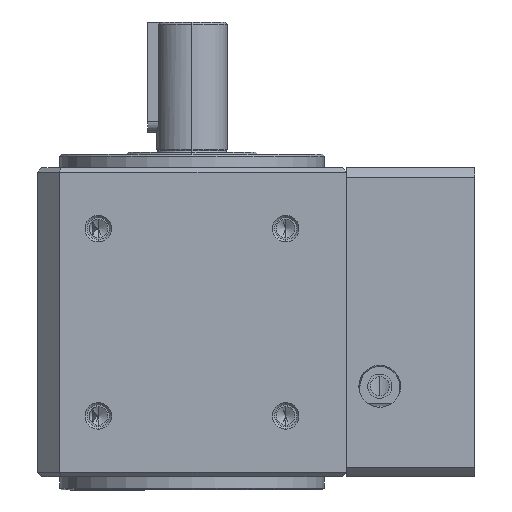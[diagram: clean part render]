
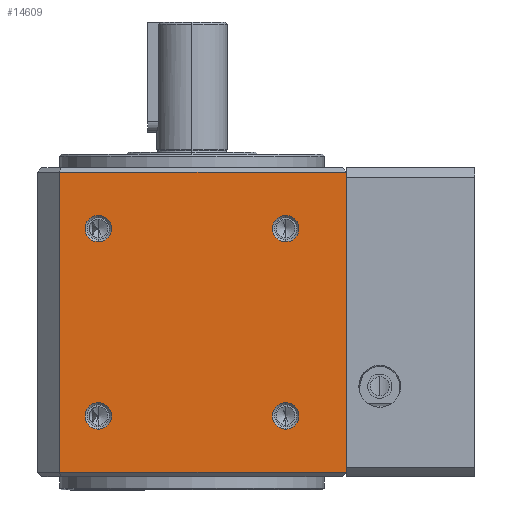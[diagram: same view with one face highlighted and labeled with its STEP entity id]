
A CAD part, front view. The second image highlights one B-rep face of the part: STEP entity #14609.
In plain terms, the highlighted planar face has unit normal (0, -1, 0).
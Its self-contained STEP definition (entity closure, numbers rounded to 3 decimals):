
#13070 = VERTEX_POINT ( 'NONE', #23437 ) ;
#13076 = EDGE_CURVE ( 'NONE', #13070, #13077, #23428, .T. ) ;
#13077 = VERTEX_POINT ( 'NONE', #23423 ) ;
#13230 = VERTEX_POINT ( 'NONE', #24698 ) ;
#13232 = EDGE_CURVE ( 'NONE', #13230, #13233, #24697, .T. ) ;
#13233 = VERTEX_POINT ( 'NONE', #24692 ) ;
#13345 = VERTEX_POINT ( 'NONE', #23815 ) ;
#13347 = EDGE_CURVE ( 'NONE', #13345, #13348, #23814, .T. ) ;
#13348 = VERTEX_POINT ( 'NONE', #23809 ) ;
#14140 = ORIENTED_EDGE ( 'NONE', *, *, #14141, .F. ) ;
#14141 = EDGE_CURVE ( 'NONE', #13348, #13345, #25699, .T. ) ;
#14142 = ORIENTED_EDGE ( 'NONE', *, *, #13347, .F. ) ;
#14143 = EDGE_LOOP ( 'NONE', ( #14144, #14148, #14151, #14154 ) ) ;
#14144 = ORIENTED_EDGE ( 'NONE', *, *, #14145, .T. ) ;
#14145 = EDGE_CURVE ( 'NONE', #14146, #14147, #25694, .T. ) ;
#14146 = VERTEX_POINT ( 'NONE', #25690 ) ;
#14147 = VERTEX_POINT ( 'NONE', #25689 ) ;
#14148 = ORIENTED_EDGE ( 'NONE', *, *, #14149, .T. ) ;
#14149 = EDGE_CURVE ( 'NONE', #14147, #14150, #25688, .T. ) ;
#14150 = VERTEX_POINT ( 'NONE', #25812 ) ;
#14151 = ORIENTED_EDGE ( 'NONE', *, *, #14152, .F. ) ;
#14152 = EDGE_CURVE ( 'NONE', #14153, #14150, #25811, .T. ) ;
#14153 = VERTEX_POINT ( 'NONE', #25807 ) ;
#14154 = ORIENTED_EDGE ( 'NONE', *, *, #14170, .T. ) ;
#14170 = EDGE_CURVE ( 'NONE', #14153, #14146, #25789, .T. ) ;
#14266 = EDGE_LOOP ( 'NONE', ( #14280, #14277 ) ) ;
#14277 = ORIENTED_EDGE ( 'NONE', *, *, #15085, .F. ) ;
#14278 = EDGE_LOOP ( 'NONE', ( #14600, #14602 ) ) ;
#14280 = ORIENTED_EDGE ( 'NONE', *, *, #14281, .F. ) ;
#14281 = EDGE_CURVE ( 'NONE', #15086, #15083, #26021, .T. ) ;
#14600 = ORIENTED_EDGE ( 'NONE', *, *, #14601, .F. ) ;
#14601 = EDGE_CURVE ( 'NONE', #13233, #13230, #26752, .T. ) ;
#14602 = ORIENTED_EDGE ( 'NONE', *, *, #13232, .F. ) ;
#14603 = EDGE_LOOP ( 'NONE', ( #14604, #14606 ) ) ;
#14604 = ORIENTED_EDGE ( 'NONE', *, *, #14605, .F. ) ;
#14605 = EDGE_CURVE ( 'NONE', #13077, #13070, #26744, .T. ) ;
#14606 = ORIENTED_EDGE ( 'NONE', *, *, #13076, .F. ) ;
#14607 = EDGE_LOOP ( 'NONE', ( #14140, #14142 ) ) ;
#14609 = ADVANCED_FACE ( 'NONE', ( #26735, #26734, #26733, #26732, #26731 ), #26730, .F. ) ;
#15083 = VERTEX_POINT ( 'NONE', #27394 ) ;
#15085 = EDGE_CURVE ( 'NONE', #15083, #15086, #27393, .T. ) ;
#15086 = VERTEX_POINT ( 'NONE', #27388 ) ;
#23423 = CARTESIAN_POINT ( 'NONE',  ( -21.213, -35., -81.213 ) ) ;
#23424 = DIRECTION ( 'NONE',  ( 0., 0., -1. ) ) ;
#23425 = DIRECTION ( 'NONE',  ( 0., -1., 0. ) ) ;
#23426 = CARTESIAN_POINT ( 'NONE',  ( -21.213, -35., -78.213 ) ) ;
#23427 = AXIS2_PLACEMENT_3D ( 'NONE', #23426, #23425, #23424 ) ;
#23428 = CIRCLE ( 'NONE', #23427, 3. ) ;
#23437 = CARTESIAN_POINT ( 'NONE',  ( -21.213, -35., -75.213 ) ) ;
#23809 = CARTESIAN_POINT ( 'NONE',  ( -21.213, -35., -38.787 ) ) ;
#23810 = DIRECTION ( 'NONE',  ( 0., 0., -1. ) ) ;
#23811 = DIRECTION ( 'NONE',  ( 0., -1., 0. ) ) ;
#23812 = CARTESIAN_POINT ( 'NONE',  ( -21.213, -35., -35.787 ) ) ;
#23813 = AXIS2_PLACEMENT_3D ( 'NONE', #23812, #23811, #23810 ) ;
#23814 = CIRCLE ( 'NONE', #23813, 3. ) ;
#23815 = CARTESIAN_POINT ( 'NONE',  ( -21.213, -35., -32.787 ) ) ;
#24692 = CARTESIAN_POINT ( 'NONE',  ( 21.213, -35., -81.213 ) ) ;
#24693 = DIRECTION ( 'NONE',  ( 0., 0., -1. ) ) ;
#24694 = DIRECTION ( 'NONE',  ( 0., -1., 0. ) ) ;
#24695 = CARTESIAN_POINT ( 'NONE',  ( 21.213, -35., -78.213 ) ) ;
#24696 = AXIS2_PLACEMENT_3D ( 'NONE', #24695, #24694, #24693 ) ;
#24697 = CIRCLE ( 'NONE', #24696, 3. ) ;
#24698 = CARTESIAN_POINT ( 'NONE',  ( 21.213, -35., -75.213 ) ) ;
#25688 = LINE ( 'NONE', #25815, #25814 ) ;
#25689 = CARTESIAN_POINT ( 'NONE',  ( -30., -35., -91. ) ) ;
#25690 = CARTESIAN_POINT ( 'NONE',  ( -30., -35., -23. ) ) ;
#25691 = DIRECTION ( 'NONE',  ( 0., 0., -1. ) ) ;
#25692 = VECTOR ( 'NONE', #25691, 1000. ) ;
#25693 = CARTESIAN_POINT ( 'NONE',  ( -30., -35., -19. ) ) ;
#25694 = LINE ( 'NONE', #25693, #25692 ) ;
#25695 = DIRECTION ( 'NONE',  ( 0., 0., -1. ) ) ;
#25696 = DIRECTION ( 'NONE',  ( 0., -1., 0. ) ) ;
#25697 = CARTESIAN_POINT ( 'NONE',  ( -21.213, -35., -35.787 ) ) ;
#25698 = AXIS2_PLACEMENT_3D ( 'NONE', #25697, #25696, #25695 ) ;
#25699 = CIRCLE ( 'NONE', #25698, 3. ) ;
#25786 = DIRECTION ( 'NONE',  ( -1., 0., 0. ) ) ;
#25787 = VECTOR ( 'NONE', #25786, 1000. ) ;
#25788 = CARTESIAN_POINT ( 'NONE',  ( -30., -35., -23. ) ) ;
#25789 = LINE ( 'NONE', #25788, #25787 ) ;
#25807 = CARTESIAN_POINT ( 'NONE',  ( 35.001, -35., -23. ) ) ;
#25808 = DIRECTION ( 'NONE',  ( 0., 0., -1. ) ) ;
#25809 = VECTOR ( 'NONE', #25808, 1000. ) ;
#25810 = CARTESIAN_POINT ( 'NONE',  ( 35.001, -35., -22. ) ) ;
#25811 = LINE ( 'NONE', #25810, #25809 ) ;
#25812 = CARTESIAN_POINT ( 'NONE',  ( 35.001, -35., -91. ) ) ;
#25813 = DIRECTION ( 'NONE',  ( 1., 0., 0. ) ) ;
#25814 = VECTOR ( 'NONE', #25813, 1000. ) ;
#25815 = CARTESIAN_POINT ( 'NONE',  ( 35.001, -35., -91. ) ) ;
#26017 = DIRECTION ( 'NONE',  ( 0., 0., -1. ) ) ;
#26018 = DIRECTION ( 'NONE',  ( 0., -1., 0. ) ) ;
#26019 = CARTESIAN_POINT ( 'NONE',  ( 21.213, -35., -35.787 ) ) ;
#26020 = AXIS2_PLACEMENT_3D ( 'NONE', #26019, #26018, #26017 ) ;
#26021 = CIRCLE ( 'NONE', #26020, 3. ) ;
#26725 = DIRECTION ( 'NONE',  ( 0., 0., 1. ) ) ;
#26726 = DIRECTION ( 'NONE',  ( 0., 1., 0. ) ) ;
#26727 = AXIS2_PLACEMENT_3D ( 'NONE', #26729, #26726, #26725 ) ;
#26729 = CARTESIAN_POINT ( 'NONE',  ( -35., -35., -19. ) ) ;
#26730 = PLANE ( 'NONE',  #26727 ) ;
#26731 = FACE_OUTER_BOUND ( 'NONE', #14143, .T. ) ;
#26732 = FACE_BOUND ( 'NONE', #14607, .T. ) ;
#26733 = FACE_BOUND ( 'NONE', #14603, .T. ) ;
#26734 = FACE_BOUND ( 'NONE', #14278, .T. ) ;
#26735 = FACE_BOUND ( 'NONE', #14266, .T. ) ;
#26740 = DIRECTION ( 'NONE',  ( 0., 0., -1. ) ) ;
#26741 = DIRECTION ( 'NONE',  ( 0., -1., 0. ) ) ;
#26742 = CARTESIAN_POINT ( 'NONE',  ( -21.213, -35., -78.213 ) ) ;
#26743 = AXIS2_PLACEMENT_3D ( 'NONE', #26742, #26741, #26740 ) ;
#26744 = CIRCLE ( 'NONE', #26743, 3. ) ;
#26745 = DIRECTION ( 'NONE',  ( 0., 0., -1. ) ) ;
#26746 = DIRECTION ( 'NONE',  ( 0., -1., 0. ) ) ;
#26747 = CARTESIAN_POINT ( 'NONE',  ( 21.213, -35., -78.213 ) ) ;
#26748 = AXIS2_PLACEMENT_3D ( 'NONE', #26747, #26746, #26745 ) ;
#26752 = CIRCLE ( 'NONE', #26748, 3. ) ;
#27388 = CARTESIAN_POINT ( 'NONE',  ( 21.213, -35., -38.787 ) ) ;
#27389 = DIRECTION ( 'NONE',  ( 0., 0., -1. ) ) ;
#27390 = DIRECTION ( 'NONE',  ( 0., -1., 0. ) ) ;
#27391 = CARTESIAN_POINT ( 'NONE',  ( 21.213, -35., -35.787 ) ) ;
#27392 = AXIS2_PLACEMENT_3D ( 'NONE', #27391, #27390, #27389 ) ;
#27393 = CIRCLE ( 'NONE', #27392, 3. ) ;
#27394 = CARTESIAN_POINT ( 'NONE',  ( 21.213, -35., -32.787 ) ) ;
